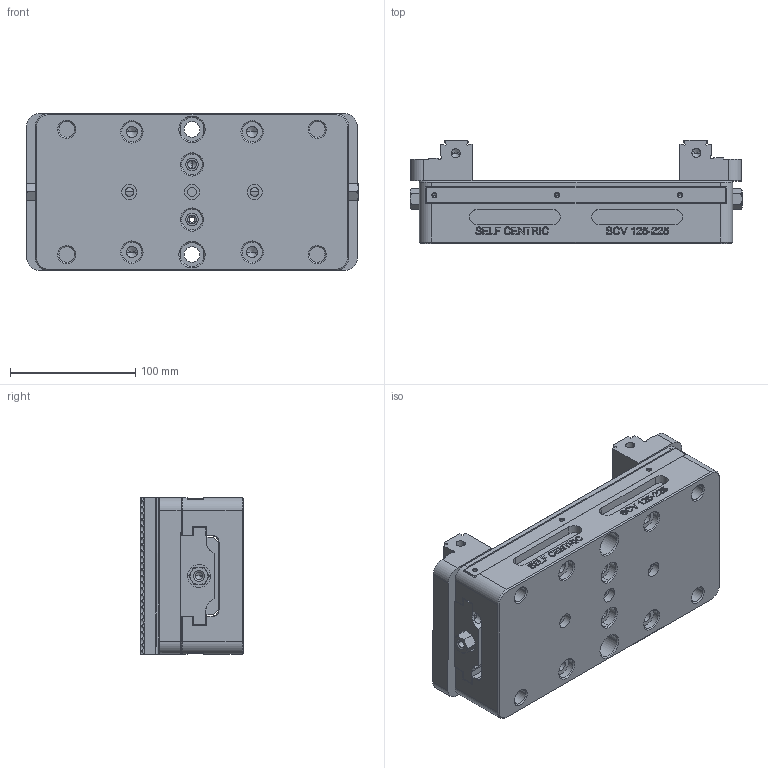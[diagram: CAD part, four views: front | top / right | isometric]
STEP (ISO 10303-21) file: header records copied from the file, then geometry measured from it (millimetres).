
FILE_DESCRIPTION((''),'2;1');
FILE_NAME('FG_VC_SCV_SC225NP001_ASM_ASM','2026-02-27T16:21:16',('Admin'),(''),'CREO PARAMETRIC BY PTC INC, 2025010','CREO PARAMETRIC BY PTC INC, 2025010','');
FILE_SCHEMA(('CONFIG_CONTROL_DESIGN'));
Length unit declared in the file: millimetre
Products named in the file (3): BODY_LEAD_SCREW_ASM; JAW_ASM; FG_VC_SCV_SC225NP001_ASM_ASM
Assembly tree (3 placements, depth 2):
  FG_VC_SCV_SC225NP001_ASM_ASM
    BODY_LEAD_SCREW_ASM
    JAW_ASM  x2
Bounding box: 265 x 82.21 x 125.31 mm (x, y, z)
Volume: 1414465.4 mm3; surface area: 247138.8 mm2
Topology: 3 solids, 13 shells, 1615 faces, 4472 edges, 2935 vertices
Faces by surface type: plane 750, cylinder 428, extrusion 231, cone 136, bspline 42, torus 28
Entity records: 47484 total; most frequent: CARTESIAN_POINT 16448, ORIENTED_EDGE 6878, DIRECTION 5565, EDGE_CURVE 3439, VERTEX_POINT 2285, VECTOR 2093, LINE 1862, AXIS2_PLACEMENT_3D 1736
